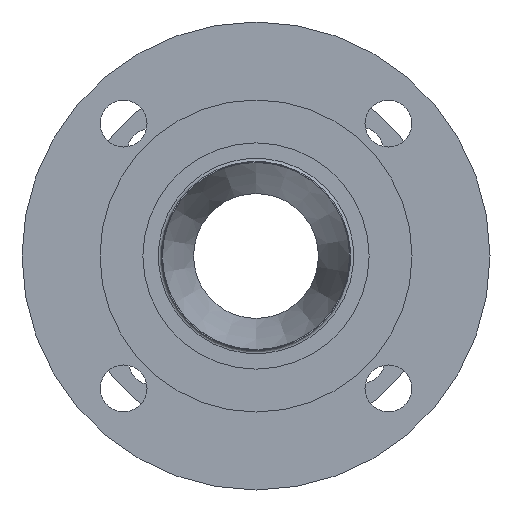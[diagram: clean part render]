
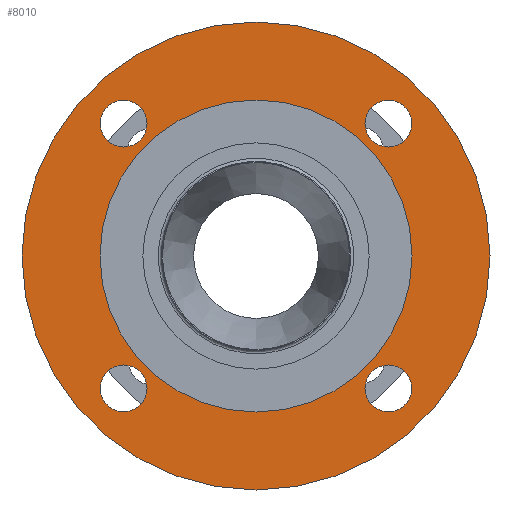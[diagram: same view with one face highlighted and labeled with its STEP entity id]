
A CAD part, front view. The second image highlights one B-rep face of the part: STEP entity #8010.
In plain terms, the highlighted planar face has unit normal (0, -1, 0) as drawn and (0, 1, 0) by its records, which use the part's own axes.
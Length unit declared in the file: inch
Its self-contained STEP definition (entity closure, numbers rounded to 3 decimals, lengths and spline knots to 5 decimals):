
#7795=CARTESIAN_POINT('',(-2.12132,0.5625,2.49632));
#7796=VERTEX_POINT('',#7795);
#7797=CARTESIAN_POINT('',(-2.12132,0.5625,2.12132));
#7798=DIRECTION('',(0.0,-1.0,0.0));
#7799=DIRECTION('',(0.0,0.0,1.0));
#7800=AXIS2_PLACEMENT_3D('',#7797,#7798,#7799);
#7801=CIRCLE('',#7800,0.375);
#7802=EDGE_CURVE('',#7796,#7796,#7801,.T.);
#7823=CARTESIAN_POINT('',(-2.49632,0.5625,-2.12132));
#7824=VERTEX_POINT('',#7823);
#7825=CARTESIAN_POINT('',(-2.12132,0.5625,-2.12132));
#7826=DIRECTION('',(0.0,-1.0,0.0));
#7827=DIRECTION('',(-1.0,0.0,0.0));
#7828=AXIS2_PLACEMENT_3D('',#7825,#7826,#7827);
#7829=CIRCLE('',#7828,0.375);
#7830=EDGE_CURVE('',#7824,#7824,#7829,.T.);
#7851=CARTESIAN_POINT('',(2.12132,0.5625,-2.49632));
#7852=VERTEX_POINT('',#7851);
#7853=CARTESIAN_POINT('',(2.12132,0.5625,-2.12132));
#7854=DIRECTION('',(0.0,-1.0,0.0));
#7855=DIRECTION('',(0.0,0.0,-1.0));
#7856=AXIS2_PLACEMENT_3D('',#7853,#7854,#7855);
#7857=CIRCLE('',#7856,0.375);
#7858=EDGE_CURVE('',#7852,#7852,#7857,.T.);
#7879=CARTESIAN_POINT('',(2.49632,0.5625,2.12132));
#7880=VERTEX_POINT('',#7879);
#7881=CARTESIAN_POINT('',(2.12132,0.5625,2.12132));
#7882=DIRECTION('',(0.0,-1.0,0.0));
#7883=DIRECTION('',(1.0,0.0,0.0));
#7884=AXIS2_PLACEMENT_3D('',#7881,#7882,#7883);
#7885=CIRCLE('',#7884,0.375);
#7886=EDGE_CURVE('',#7880,#7880,#7885,.T.);
#7907=CARTESIAN_POINT('',(2.5,0.5625,0.));
#7908=VERTEX_POINT('',#7907);
#7909=CARTESIAN_POINT('',(0.0,0.5625,0.0));
#7910=DIRECTION('',(0.0,-1.0,0.0));
#7911=DIRECTION('',(-1.0,0.0,0.0));
#7912=AXIS2_PLACEMENT_3D('',#7909,#7910,#7911);
#7913=CIRCLE('',#7912,2.5);
#7914=EDGE_CURVE('',#7908,#7908,#7913,.T.);
#7964=CARTESIAN_POINT('',(-3.75,0.5625,0.));
#7965=VERTEX_POINT('',#7964);
#7966=CARTESIAN_POINT('',(0.0,0.5625,0.0));
#7967=DIRECTION('',(0.0,-1.0,0.0));
#7968=DIRECTION('',(1.0,0.0,0.0));
#7969=AXIS2_PLACEMENT_3D('',#7966,#7967,#7968);
#7970=CIRCLE('',#7969,3.75);
#7971=EDGE_CURVE('',#7965,#7965,#7970,.T.);
#7987=CARTESIAN_POINT('',(0.0,0.5625,0.0));
#7988=DIRECTION('',(0.0,-1.0,0.0));
#7989=DIRECTION('',(0.0,0.0,-1.0));
#7990=AXIS2_PLACEMENT_3D('',#7987,#7988,#7989);
#7991=PLANE('',#7990);
#7992=ORIENTED_EDGE('',*,*,#7971,.F.);
#7993=EDGE_LOOP('',(#7992));
#7994=FACE_OUTER_BOUND('',#7993,.T.);
#7995=ORIENTED_EDGE('',*,*,#7802,.T.);
#7996=EDGE_LOOP('',(#7995));
#7997=FACE_BOUND('',#7996,.T.);
#7998=ORIENTED_EDGE('',*,*,#7830,.T.);
#7999=EDGE_LOOP('',(#7998));
#8000=FACE_BOUND('',#7999,.T.);
#8001=ORIENTED_EDGE('',*,*,#7858,.T.);
#8002=EDGE_LOOP('',(#8001));
#8003=FACE_BOUND('',#8002,.T.);
#8004=ORIENTED_EDGE('',*,*,#7886,.T.);
#8005=EDGE_LOOP('',(#8004));
#8006=FACE_BOUND('',#8005,.T.);
#8007=ORIENTED_EDGE('',*,*,#7914,.T.);
#8008=EDGE_LOOP('',(#8007));
#8009=FACE_BOUND('',#8008,.T.);
#8010=ADVANCED_FACE('',(#7994,#7997,#8000,#8003,#8006,#8009),#7991,.F.);
